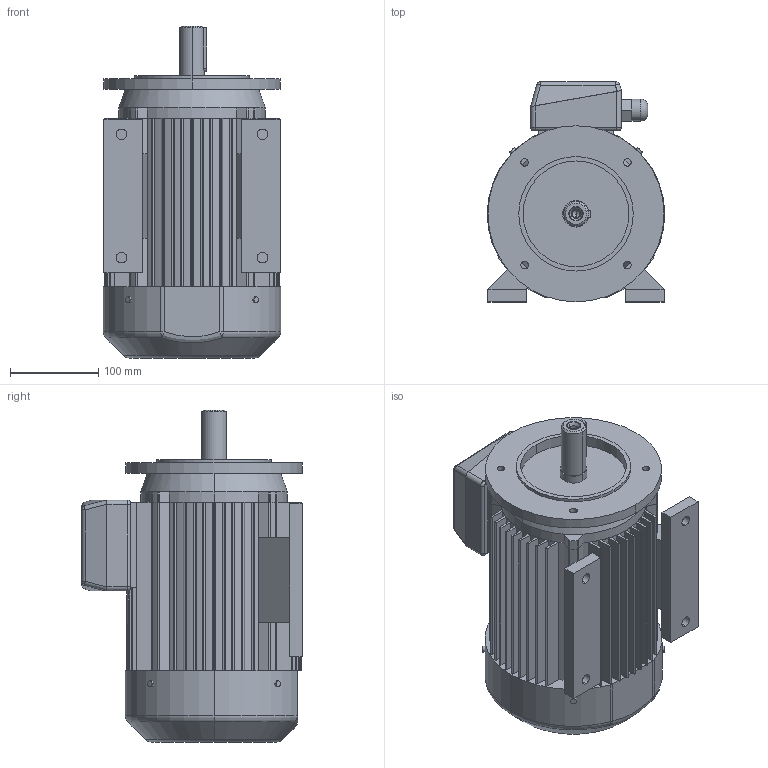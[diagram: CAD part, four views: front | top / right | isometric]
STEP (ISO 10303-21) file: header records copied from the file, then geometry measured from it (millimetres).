
FILE_DESCRIPTION (( 'STEP AP203' ), '1' );
FILE_NAME ('2SIEL100L2,6-B34-C1.STEP', '2013-01-07T13:05:58', ( 'INDUKTA' ), ( 'CANTONI MOTOR' ), 'SwSTEP 2.0', 'SolidWorks 2003064', '' );
FILE_SCHEMA (( 'CONFIG_CONTROL_DESIGN' ));
Length unit declared in the file: millimetre
Products named in the file (1): 2SIEL100L2,6-B34-C1
Bounding box: 201.5 x 250 x 377 mm (x, y, z)
Volume: 9031208 mm3; surface area: 678658 mm2
Topology: 13 solids, 13 shells, 420 faces, 1103 edges, 706 vertices
Faces by surface type: cylinder 195, plane 193, cone 14, torus 11, sphere 6, bspline 1
Entity records: 13499 total; most frequent: CARTESIAN_POINT 2796, DIRECTION 2321, ORIENTED_EDGE 2190, EDGE_CURVE 1095, AXIS2_PLACEMENT_3D 833, VERTEX_POINT 706, LINE 655, VECTOR 655
